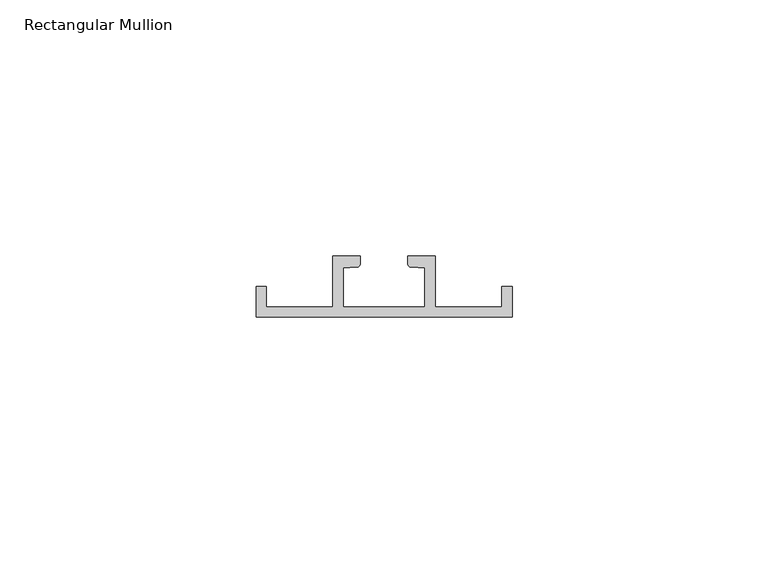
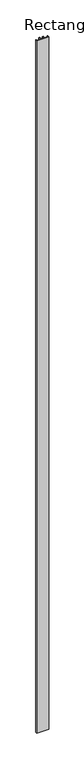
"""IFC4 building model written with IfcOpenShell, lengths in millimetres: member geometry, Rectangular Mullion : RSen_21_CWM_support profile - 50x12 - left_duco projects."""

from ifc_helpers import new_model, si_unit, point, frame, frame_2d, origin, place, context, project, spatial, polyline, circle_curve, trimmed, segment, composite_curve, outline, extrude, source, transform, mapped, element, save


def rectangular_mullion_aaee4241(model_context):
    return source(origin(), model_context, "Body", "SweptSolid", [
        extrude(outline(composite_curve([segment(polyline([(-79.65, 1.0), (-79.65, -0.5472394)]), True, "CONTINUOUS"), segment(trimmed(circle_curve(frame_2d((-80.35, -0.5472394)), 0.7), [point((-79.65, -0.5472394))], [point((-80.3011705, -1.2455343))], False, "CARTESIAN"), True, "CONTINUOUS"), segment(polyline([(-80.3011705, -1.2455343), (-83.0, -1.4342548), (-83.0, -9.0), (-67.0, -9.0), (-67.0, -1.4342548), (-69.6988295, -1.2455343)]), True, "CONTINUOUS"), segment(trimmed(circle_curve(frame_2d((-69.65, -0.5472394)), 0.7), [point((-69.6988295, -1.2455343))], [point((-70.35, -0.5472394))], False, "CARTESIAN"), True, "CONTINUOUS"), segment(polyline([(-70.35, -0.5472394), (-70.35, 1.0), (-65.0, 1.0), (-65.0, -9.0), (-52.0, -9.0), (-52.0, -5.0), (-50.0, -5.0), (-50.0, -11.0), (-100.0, -11.0), (-100.0, -5.0), (-98.0, -5.0), (-98.0, -9.0), (-85.0, -9.0), (-85.0, 1.0), (-79.65, 1.0)]), True, "CONTINUOUS")], self_intersect=False)), frame((0.0, 0.0, -3000.0), z_axis=(0.0, 0.0, 1.0), x_axis=(1.0, 0.0, 0.0)), (0.0, 0.0, 1.0), 3000.0),
    ])


if __name__ == "__main__":
    model = new_model("IFC4")
    model_context = context("Model", 3, world=origin())
    ifc_project = project(units=[si_unit("LENGTHUNIT", "METRE", prefix="MILLI")], contexts=[model_context])
    site = spatial("IfcSite", under=ifc_project)
    building = spatial("IfcBuilding", under=site)
    placement = place(None, origin())
    rectangular_mullion_shape = rectangular_mullion_aaee4241(model_context)
    element("IfcMember", 1, ObjectType="Rectangular Mullion : RSen_21_CWM_support profile - 50x12 - left_duco projects", at=placement, inside=building, context=model_context, shape_type="MappedRepresentation", body=[
        mapped(rectangular_mullion_shape, transform((0.0, 0.0, 0.0), x_axis=(1.0, 0.0, 0.0), y_axis=(0.0, 1.0, 0.0), z_axis=(0.0, 0.0, 1.0))),
    ])
    save(model, "model.ifc")
